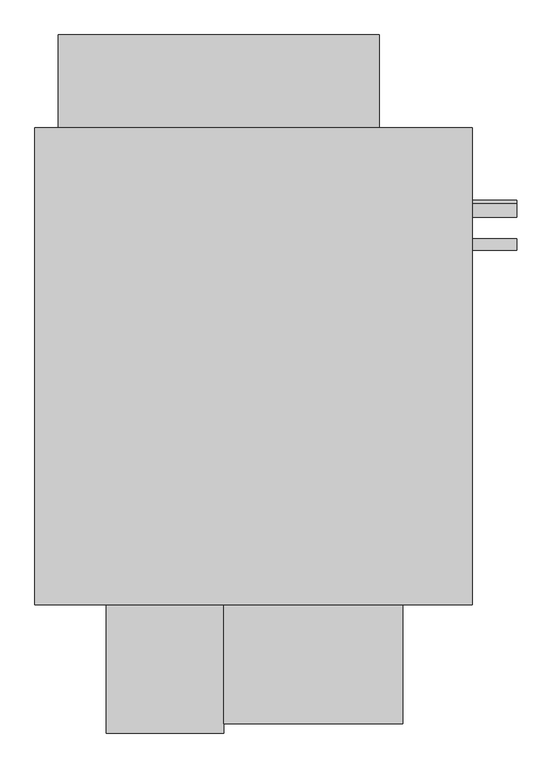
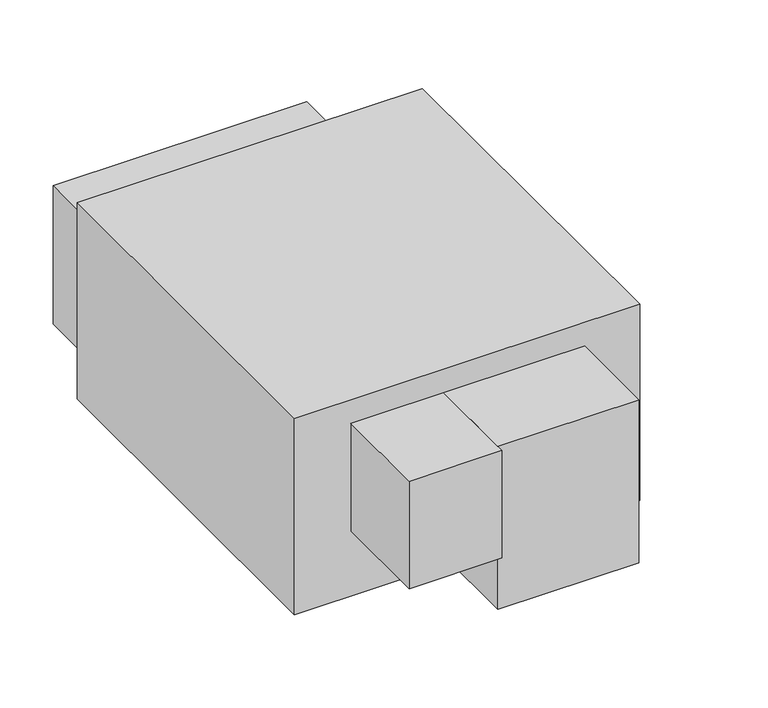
"""IFC4 building model written with IfcOpenShell, lengths in millimetres: proxy geometry, Horizontal_Direct_Drive_Blower_Coil_Unit_-_42DHA_-_CARRIER_-_2-Pipe_Cool-EHeat_RH_2022 : Size 06 - 460v/60Hz/3Ph - 8 Row 6.0kW."""

from ifc_helpers import new_model, si_unit, point, frame, frame_2d, origin, place, context, project, spatial, polyline, circle_curve, trimmed, segment, composite_curve, outline, extrude, source, transform, mapped, element, save


def mechanical_equipment_e72ba846(model_context):
    return source(origin(), model_context, "Body", "SweptSolid", [
        extrude(outline(polyline([(-228.6, 492.125), (-228.6, -422.275), (-1066.8, -422.275), (-1066.8, 492.125), (-228.6, 492.125)])), frame((0.0, 0.0, -504.8058174), z_axis=(0.0, 0.0, 1.0), x_axis=(1.0, 0.0, 0.0)), (0.0, 0.0, 1.0), 504.8058174),
        extrude(outline(polyline([(-361.95, -650.875), (-704.85, -650.875), (-704.85, -422.275), (-361.95, -422.275), (-361.95, -650.875)])), frame((0.0, 0.0, -479.4058174), z_axis=(0.0, 0.0, 1.0), x_axis=(1.0, 0.0, 0.0)), (0.0, 0.0, 1.0), 419.1),
        extrude(outline(composite_curve([segment(trimmed(circle_curve(frame_2d((333.375, -177.8)), 12.7), [point((346.075, -177.8))], [point((320.675, -177.8))], False, "CARTESIAN"), True, "CONTINUOUS"), segment(trimmed(circle_curve(frame_2d((333.375, -177.8)), 12.7), [point((320.675, -177.8))], [point((346.075, -177.8))], False, "CARTESIAN"), True, "CONTINUOUS")], self_intersect=False)), frame((-228.6, 0.0, 0.0), z_axis=(1.0, 0.0, 0.0), x_axis=(0.0, 1.0, 0.0)), (0.0, 0.0, 1.0), 85.2932),
        extrude(outline(composite_curve([segment(trimmed(circle_curve(frame_2d((340.130856, -377.8058174)), 12.7), [point((352.830856, -377.8058174))], [point((327.430856, -377.8058174))], False, "CARTESIAN"), True, "CONTINUOUS"), segment(trimmed(circle_curve(frame_2d((340.130856, -377.8058174)), 12.7), [point((327.430856, -377.8058174))], [point((352.830856, -377.8058174))], False, "CARTESIAN"), True, "CONTINUOUS")], self_intersect=False)), frame((-228.6, 0.0, 0.0), z_axis=(1.0, 0.0, 0.0), x_axis=(0.0, 1.0, 0.0)), (0.0, 0.0, 1.0), 85.2932),
        extrude(outline(composite_curve([segment(trimmed(circle_curve(frame_2d((268.4630494, -460.3558174)), 11.1125), [point((279.5755494, -460.3558174))], [point((257.3505494, -460.3558174))], False, "CARTESIAN"), True, "CONTINUOUS"), segment(trimmed(circle_curve(frame_2d((268.4630494, -460.3558174)), 11.1125), [point((257.3505494, -460.3558174))], [point((279.5755494, -460.3558174))], False, "CARTESIAN"), True, "CONTINUOUS")], self_intersect=False)), frame((-228.6, 0.0, 0.0), z_axis=(1.0, 0.0, 0.0), x_axis=(0.0, 1.0, 0.0)), (0.0, 0.0, 1.0), 85.2932),
        extrude(outline(polyline([(-1022.35, 669.925), (-406.4, 669.925), (-406.4, 492.125), (-1022.35, 492.125), (-1022.35, 669.925)])), frame((0.0, 0.0, -434.9558174), z_axis=(0.0, 0.0, 1.0), x_axis=(1.0, 0.0, 0.0)), (0.0, 0.0, 1.0), 355.6),
        extrude(outline(polyline([(-704.85, -668.3375), (-930.275, -668.3375), (-930.275, -422.275), (-704.85, -422.275), (-704.85, -668.3375)])), frame((0.0, 0.0, -336.5308174), z_axis=(0.0, 0.0, 1.0), x_axis=(1.0, 0.0, 0.0)), (0.0, 0.0, 1.0), 276.225),
    ])


if __name__ == "__main__":
    model = new_model("IFC4")
    model_context = context("Model", 3, world=origin())
    ifc_project = project(units=[si_unit("LENGTHUNIT", "METRE", prefix="MILLI")], contexts=[model_context])
    site = spatial("IfcSite", under=ifc_project)
    building = spatial("IfcBuilding", under=site)
    placement = place(None, origin())
    mechanical_equipment_shape = mechanical_equipment_e72ba846(model_context)
    element("IfcBuildingElementProxy", 1, Name="Horizontal_Direct_Drive_Blower_Coil_Unit_-_42DHA_-_CARRIER_-_2-Pipe_Cool-EHeat_RH_2022 : Size 06 - 460v/60Hz/3Ph - 8 Row 6.0kW", ObjectType="Horizontal_Direct_Drive_Blower_Coil_Unit_-_42DHA_-_CARRIER_-_2-Pipe_Cool-EHeat_RH_2022 : Size 06 - 460v/60Hz/3Ph - 8 Row 6.0kW", at=placement, inside=building, context=model_context, shape_type="MappedRepresentation", body=[
        mapped(mechanical_equipment_shape, transform((0.0, 0.0, 0.0), x_axis=(1.0, 0.0, 0.0), y_axis=(0.0, 1.0, 0.0), z_axis=(0.0, 0.0, 1.0))),
    ])
    save(model, "model.ifc")
